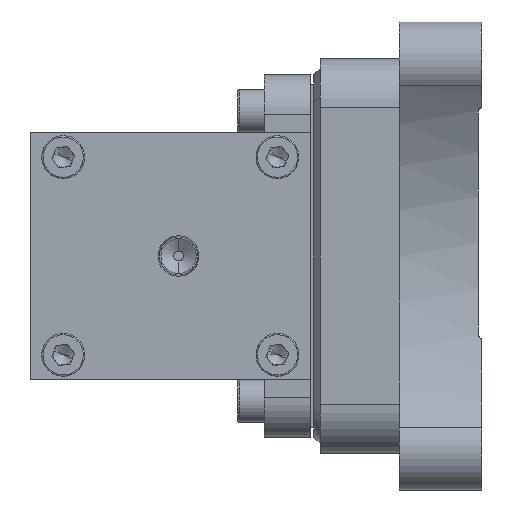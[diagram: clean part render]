
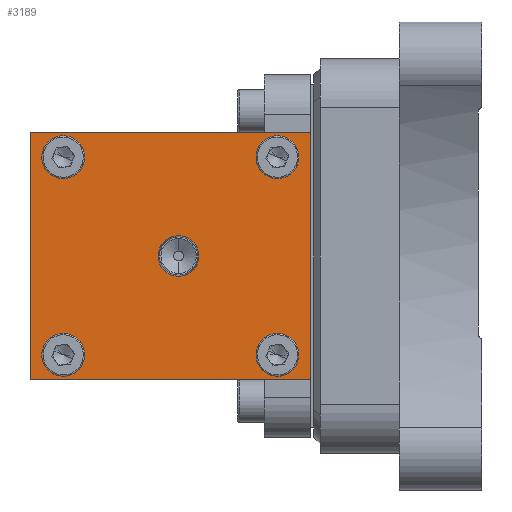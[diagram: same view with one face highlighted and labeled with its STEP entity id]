
A CAD part, left-side view. The second image highlights one B-rep face of the part: STEP entity #3189.
In plain terms, the highlighted planar face has unit normal (-1, 0, 0) as drawn and (1, 0, 0) by its records, which use the part's own axes.
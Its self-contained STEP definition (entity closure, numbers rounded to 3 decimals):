
#63 = CIRCLE ( 'NONE', #6885, 4. ) ;
#98 = AXIS2_PLACEMENT_3D ( 'NONE', #3169, #4495, #9838 ) ;
#126 = EDGE_CURVE ( 'NONE', #4186, #4653, #4777, .T. ) ;
#143 = CARTESIAN_POINT ( 'NONE',  ( 93., 86., 37.5 ) ) ;
#206 = DIRECTION ( 'NONE',  ( 0., 0., -1. ) ) ;
#285 = DIRECTION ( 'NONE',  ( 0., 0., -1. ) ) ;
#302 = ORIENTED_EDGE ( 'NONE', *, *, #2810, .F. ) ;
#309 = VERTEX_POINT ( 'NONE', #4356 ) ;
#412 = EDGE_CURVE ( 'NONE', #309, #3732, #7621, .T. ) ;
#446 = PLANE ( 'NONE',  #887 ) ;
#478 = ORIENTED_EDGE ( 'NONE', *, *, #1984, .F. ) ;
#632 = VECTOR ( 'NONE', #9905, 1000. ) ;
#693 = AXIS2_PLACEMENT_3D ( 'NONE', #3210, #7919, #5645 ) ;
#735 = AXIS2_PLACEMENT_3D ( 'NONE', #2299, #3077, #5409 ) ;
#766 = EDGE_CURVE ( 'NONE', #6213, #3732, #7011, .T. ) ;
#788 = ORIENTED_EDGE ( 'NONE', *, *, #7556, .T. ) ;
#800 = VECTOR ( 'NONE', #4525, 1000. ) ;
#887 = AXIS2_PLACEMENT_3D ( 'NONE', #1202, #4354, #6703 ) ;
#935 = CARTESIAN_POINT ( 'NONE',  ( 93., 41., 6.154 ) ) ;
#1067 = EDGE_LOOP ( 'NONE', ( #1649, #302 ) ) ;
#1077 = CARTESIAN_POINT ( 'NONE',  ( 93., 1., 37.5 ) ) ;
#1149 = EDGE_LOOP ( 'NONE', ( #478, #2591 ) ) ;
#1202 = CARTESIAN_POINT ( 'NONE',  ( 93., 86., 37.5 ) ) ;
#1272 = EDGE_LOOP ( 'NONE', ( #6008, #2586, #3665, #788 ) ) ;
#1310 = CARTESIAN_POINT ( 'NONE',  ( 93., 76., -34. ) ) ;
#1362 = EDGE_CURVE ( 'NONE', #9229, #5145, #4025, .T. ) ;
#1602 = EDGE_CURVE ( 'NONE', #4846, #4017, #3773, .T. ) ;
#1649 = ORIENTED_EDGE ( 'NONE', *, *, #126, .F. ) ;
#1740 = EDGE_CURVE ( 'NONE', #5145, #9229, #4749, .T. ) ;
#1741 = AXIS2_PLACEMENT_3D ( 'NONE', #8756, #2699, #6535 ) ;
#1803 = CARTESIAN_POINT ( 'NONE',  ( 93., 41., 0. ) ) ;
#1957 = CARTESIAN_POINT ( 'NONE',  ( 93., 76., -30. ) ) ;
#1984 = EDGE_CURVE ( 'NONE', #4935, #7386, #4497, .T. ) ;
#2246 = EDGE_LOOP ( 'NONE', ( #9792, #6665 ) ) ;
#2274 = CIRCLE ( 'NONE', #7964, 4. ) ;
#2299 = CARTESIAN_POINT ( 'NONE',  ( 93., 11., -30. ) ) ;
#2343 = CARTESIAN_POINT ( 'NONE',  ( 93., 11., 34. ) ) ;
#2586 = ORIENTED_EDGE ( 'NONE', *, *, #766, .F. ) ;
#2591 = ORIENTED_EDGE ( 'NONE', *, *, #7152, .F. ) ;
#2645 = CARTESIAN_POINT ( 'NONE',  ( 93., 11., 30. ) ) ;
#2699 = DIRECTION ( 'NONE',  ( 1., 0., 0. ) ) ;
#2705 = CARTESIAN_POINT ( 'NONE',  ( 93., 11., 26. ) ) ;
#2810 = EDGE_CURVE ( 'NONE', #4653, #4186, #3156, .T. ) ;
#2812 = CARTESIAN_POINT ( 'NONE',  ( 93., 41., -6.154 ) ) ;
#2930 = FACE_BOUND ( 'NONE', #8888, .T. ) ;
#2967 = CARTESIAN_POINT ( 'NONE',  ( 93., 1., 37.5 ) ) ;
#2987 = EDGE_CURVE ( 'NONE', #9546, #8502, #3765, .T. ) ;
#3077 = DIRECTION ( 'NONE',  ( 1., 0., 0. ) ) ;
#3156 = CIRCLE ( 'NONE', #693, 4. ) ;
#3169 = CARTESIAN_POINT ( 'NONE',  ( 93., 41., 0. ) ) ;
#3189 = ADVANCED_FACE ( 'NONE', ( #3988, #5812, #6278, #2930, #4234, #3757 ), #446, .F. ) ;
#3210 = CARTESIAN_POINT ( 'NONE',  ( 93., 11., -30. ) ) ;
#3480 = LINE ( 'NONE', #2967, #800 ) ;
#3665 = ORIENTED_EDGE ( 'NONE', *, *, #7884, .F. ) ;
#3732 = VERTEX_POINT ( 'NONE', #9920 ) ;
#3757 = FACE_BOUND ( 'NONE', #6680, .T. ) ;
#3765 = CIRCLE ( 'NONE', #1741, 4. ) ;
#3773 = CIRCLE ( 'NONE', #98, 6.154 ) ;
#3798 = CARTESIAN_POINT ( 'NONE',  ( 93., 76., 30. ) ) ;
#3818 = ORIENTED_EDGE ( 'NONE', *, *, #1602, .F. ) ;
#3988 = FACE_OUTER_BOUND ( 'NONE', #1272, .T. ) ;
#4017 = VERTEX_POINT ( 'NONE', #2812 ) ;
#4025 = CIRCLE ( 'NONE', #7136, 4. ) ;
#4046 = CARTESIAN_POINT ( 'NONE',  ( 93., 86., 37.5 ) ) ;
#4074 = CARTESIAN_POINT ( 'NONE',  ( 93., 11., -34. ) ) ;
#4102 = CARTESIAN_POINT ( 'NONE',  ( 93., 86., 37.5 ) ) ;
#4186 = VERTEX_POINT ( 'NONE', #4074 ) ;
#4234 = FACE_BOUND ( 'NONE', #1067, .T. ) ;
#4283 = CARTESIAN_POINT ( 'NONE',  ( 93., 76., -26. ) ) ;
#4354 = DIRECTION ( 'NONE',  ( -1., 0., 0. ) ) ;
#4356 = CARTESIAN_POINT ( 'NONE',  ( 93., 1., -37.5 ) ) ;
#4495 = DIRECTION ( 'NONE',  ( 1., 0., 0. ) ) ;
#4497 = CIRCLE ( 'NONE', #8560, 4. ) ;
#4525 = DIRECTION ( 'NONE',  ( 0., 0., -1. ) ) ;
#4638 = CARTESIAN_POINT ( 'NONE',  ( 93., 11., -26. ) ) ;
#4653 = VERTEX_POINT ( 'NONE', #4638 ) ;
#4749 = CIRCLE ( 'NONE', #6824, 4. ) ;
#4777 = CIRCLE ( 'NONE', #735, 4. ) ;
#4846 = VERTEX_POINT ( 'NONE', #935 ) ;
#4935 = VERTEX_POINT ( 'NONE', #9457 ) ;
#5021 = VERTEX_POINT ( 'NONE', #1077 ) ;
#5145 = VERTEX_POINT ( 'NONE', #1310 ) ;
#5409 = DIRECTION ( 'NONE',  ( 0., 0., -1. ) ) ;
#5432 = CARTESIAN_POINT ( 'NONE',  ( 93., 76., 30. ) ) ;
#5645 = DIRECTION ( 'NONE',  ( 0., 0., -1. ) ) ;
#5653 = LINE ( 'NONE', #4102, #5890 ) ;
#5661 = DIRECTION ( 'NONE',  ( 0., 1., 0. ) ) ;
#5726 = DIRECTION ( 'NONE',  ( 0., 0., -1. ) ) ;
#5812 = FACE_BOUND ( 'NONE', #1149, .T. ) ;
#5890 = VECTOR ( 'NONE', #5661, 1000. ) ;
#5895 = ORIENTED_EDGE ( 'NONE', *, *, #2987, .F. ) ;
#6008 = ORIENTED_EDGE ( 'NONE', *, *, #412, .T. ) ;
#6213 = VERTEX_POINT ( 'NONE', #143 ) ;
#6278 = FACE_BOUND ( 'NONE', #2246, .T. ) ;
#6432 = DIRECTION ( 'NONE',  ( 1., 0., 0. ) ) ;
#6462 = DIRECTION ( 'NONE',  ( 1., 0., 0. ) ) ;
#6475 = DIRECTION ( 'NONE',  ( 1., 0., 0. ) ) ;
#6535 = DIRECTION ( 'NONE',  ( 0., 0., -1. ) ) ;
#6665 = ORIENTED_EDGE ( 'NONE', *, *, #1362, .F. ) ;
#6678 = ORIENTED_EDGE ( 'NONE', *, *, #6769, .F. ) ;
#6680 = EDGE_LOOP ( 'NONE', ( #6678, #3818 ) ) ;
#6703 = DIRECTION ( 'NONE',  ( 0., 0., 1. ) ) ;
#6769 = EDGE_CURVE ( 'NONE', #4017, #4846, #8538, .T. ) ;
#6824 = AXIS2_PLACEMENT_3D ( 'NONE', #9442, #7178, #206 ) ;
#6853 = CARTESIAN_POINT ( 'NONE',  ( 93., 86., -37.5 ) ) ;
#6885 = AXIS2_PLACEMENT_3D ( 'NONE', #2645, #6475, #8768 ) ;
#7011 = LINE ( 'NONE', #4046, #7969 ) ;
#7136 = AXIS2_PLACEMENT_3D ( 'NONE', #1957, #6432, #285 ) ;
#7152 = EDGE_CURVE ( 'NONE', #7386, #4935, #2274, .T. ) ;
#7178 = DIRECTION ( 'NONE',  ( 1., 0., 0. ) ) ;
#7386 = VERTEX_POINT ( 'NONE', #9655 ) ;
#7556 = EDGE_CURVE ( 'NONE', #5021, #309, #3480, .T. ) ;
#7621 = LINE ( 'NONE', #6853, #632 ) ;
#7884 = EDGE_CURVE ( 'NONE', #5021, #6213, #5653, .T. ) ;
#7919 = DIRECTION ( 'NONE',  ( 1., 0., 0. ) ) ;
#7964 = AXIS2_PLACEMENT_3D ( 'NONE', #5432, #6462, #8054 ) ;
#7969 = VECTOR ( 'NONE', #9475, 1000. ) ;
#8054 = DIRECTION ( 'NONE',  ( 0., 0., -1. ) ) ;
#8463 = EDGE_CURVE ( 'NONE', #8502, #9546, #63, .T. ) ;
#8502 = VERTEX_POINT ( 'NONE', #2705 ) ;
#8538 = CIRCLE ( 'NONE', #8945, 6.154 ) ;
#8560 = AXIS2_PLACEMENT_3D ( 'NONE', #3798, #9168, #9924 ) ;
#8756 = CARTESIAN_POINT ( 'NONE',  ( 93., 11., 30. ) ) ;
#8768 = DIRECTION ( 'NONE',  ( 0., 0., -1. ) ) ;
#8774 = DIRECTION ( 'NONE',  ( 1., 0., 0. ) ) ;
#8888 = EDGE_LOOP ( 'NONE', ( #9454, #5895 ) ) ;
#8945 = AXIS2_PLACEMENT_3D ( 'NONE', #1803, #8774, #5726 ) ;
#9168 = DIRECTION ( 'NONE',  ( 1., 0., 0. ) ) ;
#9229 = VERTEX_POINT ( 'NONE', #4283 ) ;
#9442 = CARTESIAN_POINT ( 'NONE',  ( 93., 76., -30. ) ) ;
#9454 = ORIENTED_EDGE ( 'NONE', *, *, #8463, .F. ) ;
#9457 = CARTESIAN_POINT ( 'NONE',  ( 93., 76., 26. ) ) ;
#9475 = DIRECTION ( 'NONE',  ( 0., 0., -1. ) ) ;
#9546 = VERTEX_POINT ( 'NONE', #2343 ) ;
#9655 = CARTESIAN_POINT ( 'NONE',  ( 93., 76., 34. ) ) ;
#9792 = ORIENTED_EDGE ( 'NONE', *, *, #1740, .F. ) ;
#9838 = DIRECTION ( 'NONE',  ( 0., 0., -1. ) ) ;
#9905 = DIRECTION ( 'NONE',  ( 0., 1., 0. ) ) ;
#9920 = CARTESIAN_POINT ( 'NONE',  ( 93., 86., -37.5 ) ) ;
#9924 = DIRECTION ( 'NONE',  ( 0., 0., -1. ) ) ;
